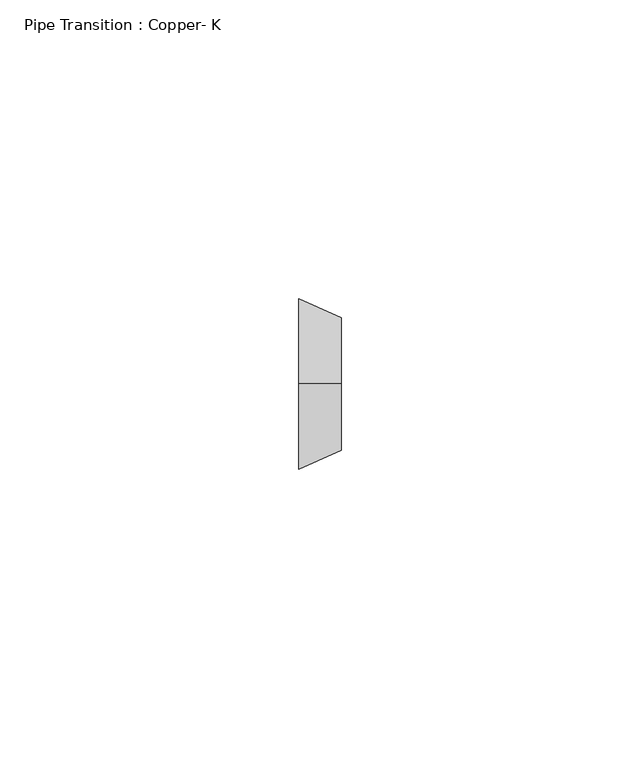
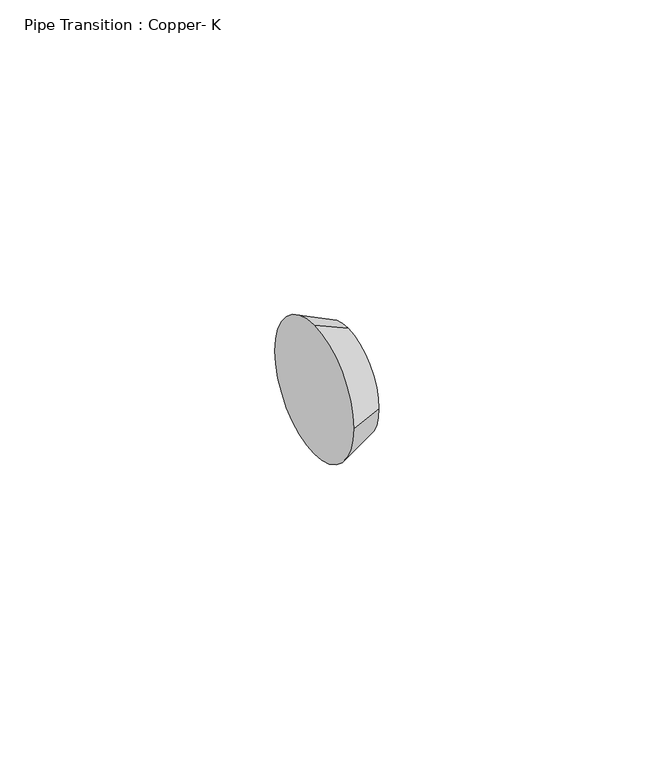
"""IFC4 building model written with IfcOpenShell, lengths in millimetres: pipe fitting geometry, Pipe Transition : Copper- K."""

from ifc_helpers import new_model, si_unit, frame, origin, place, context, project, spatial, circle_curve, source, transform, mapped, element, save
from ifc_brep_helpers import plane_surface, spline_surface, advanced_brep


def pipe_transition_copper_k_b72b171f(model_context):
    return source(origin(), model_context, "Body", "AdvancedBrep", [
        advanced_brep(
        [(7.14375, 0.0, 11.119789), (7.14375, -11.1125, 0.007289), (7.14375, 0.0, -11.105211), (7.14375, 11.1125, 0.007289), (0.0, 0.0, 14.2875), (0.0, 14.2875, 0.0), (0.0, 0.0, -14.2875), (0.0, -14.2875, 0.0)],
        [
            (0, 1, circle_curve(frame((7.14375, 0.0, 0.007289), z_axis=(1.0, 0.0, 0.0), x_axis=(0.0, 1.0, 0.0)), 11.1125)),
            (1, 2, circle_curve(frame((7.14375, 0.0, 0.007289), z_axis=(1.0, 0.0, 0.0), x_axis=(0.0, 1.0, 0.0)), 11.1125)),
            (2, 3, circle_curve(frame((7.14375, 0.0, 0.007289), z_axis=(1.0, 0.0, 0.0), x_axis=(0.0, 1.0, 0.0)), 11.1125)),
            (3, 0, circle_curve(frame((7.14375, 0.0, 0.007289), z_axis=(1.0, 0.0, 0.0), x_axis=(0.0, 1.0, 0.0)), 11.1125)),
            (4, 5, circle_curve(frame((0.0, 0.0, 0.0), z_axis=(-1.0, 0.0, 0.0), x_axis=(0.0, 1.0, 0.0)), 14.2875)),
            (5, 6, circle_curve(frame((0.0, 0.0, 0.0), z_axis=(-1.0, 0.0, 0.0), x_axis=(0.0, 1.0, 0.0)), 14.2875)),
            (6, 7, circle_curve(frame((0.0, 0.0, 0.0), z_axis=(-1.0, 0.0, 0.0), x_axis=(0.0, 1.0, 0.0)), 14.2875)),
            (7, 4, circle_curve(frame((0.0, 0.0, 0.0), z_axis=(-1.0, 0.0, 0.0), x_axis=(0.0, 1.0, 0.0)), 14.2875)),
            (7, 1),
            (0, 4),
            (6, 2),
            (5, 3),
        ],
        [
            plane_surface(frame((7.14375, 0.0, 0.007289), z_axis=(1.0, 0.0, 0.0), x_axis=(0.0, -1.0, 0.0))),
            plane_surface(frame((0.0, 0.0, 0.0), z_axis=(-1.0, 0.0, 0.0), x_axis=(0.0, -1.0, 0.0))),
            spline_surface(2, 1, [[(0.0, 0.0, 14.2875), (7.14375, 0.0, 11.119789)], [(0.0, -14.2875, 14.2875), (7.14375, -11.1125, 11.119789)], [(0.0, -14.2875, 0.0), (7.14375, -11.1125, 0.007289)]], [3, 3], [2, 2], [0.0, 1.0], [0.0, 1.0], weights=[[1.0, 1.0], [0.7071067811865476, 0.7071067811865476], [1.0, 1.0]]),
            spline_surface(2, 1, [[(0.0, -14.2875, 0.0), (7.14375, -11.1125, 0.007289)], [(0.0, -14.2875, -14.2875), (7.14375, -11.1125, -11.105211)], [(0.0, 0.0, -14.2875), (7.14375, 0.0, -11.105211)]], [3, 3], [2, 2], [0.0, 1.0], [0.0, 1.0], weights=[[1.0, 1.0], [0.7071067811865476, 0.7071067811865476], [1.0, 1.0]]),
            spline_surface(2, 1, [[(0.0, 0.0, -14.2875), (7.14375, 0.0, -11.105211)], [(0.0, 14.2875, -14.2875), (7.14375, 11.1125, -11.105211)], [(0.0, 14.2875, 0.0), (7.14375, 11.1125, 0.007289)]], [3, 3], [2, 2], [0.0, 1.0], [0.0, 1.0], weights=[[1.0, 1.0], [0.7071067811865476, 0.7071067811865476], [1.0, 1.0]]),
            spline_surface(2, 1, [[(0.0, 14.2875, 0.0), (7.14375, 11.1125, 0.007289)], [(0.0, 14.2875, 14.2875), (7.14375, 11.1125, 11.119789)], [(0.0, 0.0, 14.2875), (7.14375, 0.0, 11.119789)]], [3, 3], [2, 2], [0.0, 1.0], [0.0, 1.0], weights=[[1.0, 1.0], [0.7071067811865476, 0.7071067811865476], [1.0, 1.0]]),
        ],
        [
            (0, [[1, 2, 3, 4]]),
            (1, [[5, 6, 7, 8]]),
            (2, [[-8, 9, -1, 10]]),
            (3, [[-7, 11, -2, -9]]),
            (4, [[-6, 12, -3, -11]]),
            (5, [[-5, -10, -4, -12]]),
        ],
    ),
        advanced_brep(
        [(7.14375, 0.0, 11.119789), (7.14375, -11.1125, 0.007289), (7.14375, 0.0, -11.105211), (7.14375, 11.1125, 0.007289), (0.0, 0.0, 14.2875), (0.0, 14.2875, 0.0), (0.0, 0.0, -14.2875), (0.0, -14.2875, 0.0)],
        [
            (0, 1, circle_curve(frame((7.14375, 0.0, 0.007289), z_axis=(1.0, 0.0, 0.0), x_axis=(0.0, 1.0, 0.0)), 11.1125)),
            (1, 2, circle_curve(frame((7.14375, 0.0, 0.007289), z_axis=(1.0, 0.0, 0.0), x_axis=(0.0, 1.0, 0.0)), 11.1125)),
            (2, 3, circle_curve(frame((7.14375, 0.0, 0.007289), z_axis=(1.0, 0.0, 0.0), x_axis=(0.0, 1.0, 0.0)), 11.1125)),
            (3, 0, circle_curve(frame((7.14375, 0.0, 0.007289), z_axis=(1.0, 0.0, 0.0), x_axis=(0.0, 1.0, 0.0)), 11.1125)),
            (4, 5, circle_curve(frame((0.0, 0.0, 0.0), z_axis=(-1.0, 0.0, 0.0), x_axis=(0.0, 1.0, 0.0)), 14.2875)),
            (5, 6, circle_curve(frame((0.0, 0.0, 0.0), z_axis=(-1.0, 0.0, 0.0), x_axis=(0.0, 1.0, 0.0)), 14.2875)),
            (6, 7, circle_curve(frame((0.0, 0.0, 0.0), z_axis=(-1.0, 0.0, 0.0), x_axis=(0.0, 1.0, 0.0)), 14.2875)),
            (7, 4, circle_curve(frame((0.0, 0.0, 0.0), z_axis=(-1.0, 0.0, 0.0), x_axis=(0.0, 1.0, 0.0)), 14.2875)),
            (7, 1),
            (0, 4),
            (6, 2),
            (5, 3),
        ],
        [
            plane_surface(frame((7.14375, 0.0, 0.007289), z_axis=(1.0, 0.0, 0.0), x_axis=(0.0, -1.0, 0.0))),
            plane_surface(frame((0.0, 0.0, 0.0), z_axis=(-1.0, 0.0, 0.0), x_axis=(0.0, -1.0, 0.0))),
            spline_surface(2, 1, [[(0.0, 0.0, 14.2875), (7.14375, 0.0, 11.119789)], [(0.0, -14.2875, 14.2875), (7.14375, -11.1125, 11.119789)], [(0.0, -14.2875, 0.0), (7.14375, -11.1125, 0.007289)]], [3, 3], [2, 2], [0.0, 1.0], [0.0, 1.0], weights=[[1.0, 1.0], [0.7071067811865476, 0.7071067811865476], [1.0, 1.0]]),
            spline_surface(2, 1, [[(0.0, -14.2875, 0.0), (7.14375, -11.1125, 0.007289)], [(0.0, -14.2875, -14.2875), (7.14375, -11.1125, -11.105211)], [(0.0, 0.0, -14.2875), (7.14375, 0.0, -11.105211)]], [3, 3], [2, 2], [0.0, 1.0], [0.0, 1.0], weights=[[1.0, 1.0], [0.7071067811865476, 0.7071067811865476], [1.0, 1.0]]),
            spline_surface(2, 1, [[(0.0, 0.0, -14.2875), (7.14375, 0.0, -11.105211)], [(0.0, 14.2875, -14.2875), (7.14375, 11.1125, -11.105211)], [(0.0, 14.2875, 0.0), (7.14375, 11.1125, 0.007289)]], [3, 3], [2, 2], [0.0, 1.0], [0.0, 1.0], weights=[[1.0, 1.0], [0.7071067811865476, 0.7071067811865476], [1.0, 1.0]]),
            spline_surface(2, 1, [[(0.0, 14.2875, 0.0), (7.14375, 11.1125, 0.007289)], [(0.0, 14.2875, 14.2875), (7.14375, 11.1125, 11.119789)], [(0.0, 0.0, 14.2875), (7.14375, 0.0, 11.119789)]], [3, 3], [2, 2], [0.0, 1.0], [0.0, 1.0], weights=[[1.0, 1.0], [0.7071067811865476, 0.7071067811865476], [1.0, 1.0]]),
        ],
        [
            (0, [[1, 2, 3, 4]]),
            (1, [[5, 6, 7, 8]]),
            (2, [[-8, 9, -1, 10]]),
            (3, [[-7, 11, -2, -9]]),
            (4, [[-6, 12, -3, -11]]),
            (5, [[-5, -10, -4, -12]]),
        ],
    ),
    ])


if __name__ == "__main__":
    model = new_model("IFC4")
    model_context = context("Model", 3, world=origin())
    ifc_project = project(units=[si_unit("LENGTHUNIT", "METRE", prefix="MILLI")], contexts=[model_context])
    site = spatial("IfcSite", under=ifc_project)
    building = spatial("IfcBuilding", under=site)
    placement = place(None, origin())
    pipe_transition_copper_k_shape = pipe_transition_copper_k_b72b171f(model_context)
    element("IfcPipeFitting", 1, ObjectType="Pipe Transition : Copper- K", at=placement, inside=building, context=model_context, shape_type="MappedRepresentation", body=[
        mapped(pipe_transition_copper_k_shape, transform((0.0, 0.0, 0.0), x_axis=(1.0, 0.0, 0.0), y_axis=(0.0, 1.0, 0.0), z_axis=(0.0, 0.0, 1.0))),
    ])
    save(model, "model.ifc")
